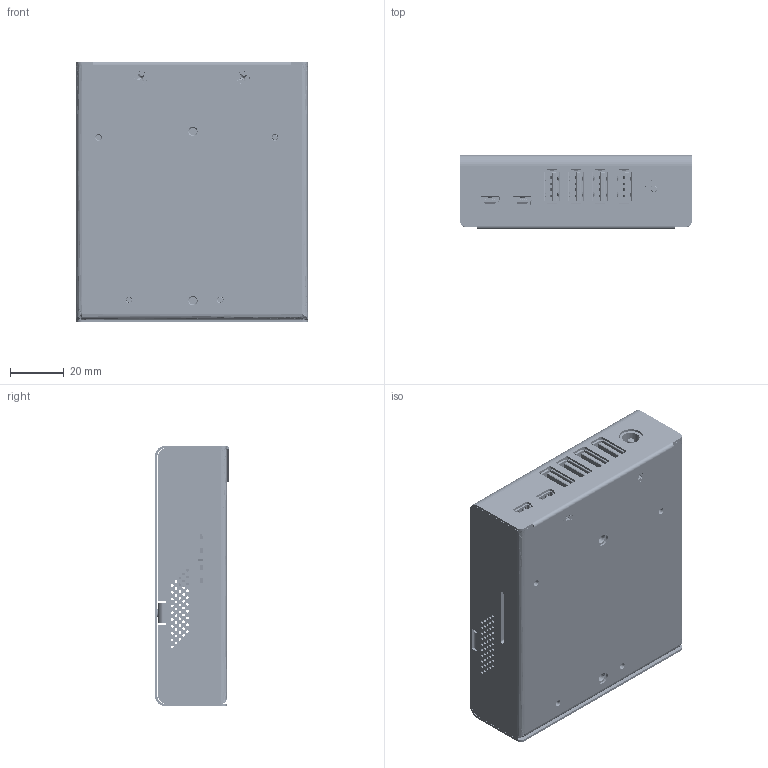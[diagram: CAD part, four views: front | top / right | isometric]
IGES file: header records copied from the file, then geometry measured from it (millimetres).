
Start section: SolidWorks IGES file using analytic representation for surfaces
Global section: file name: C:\Users\acroname\Desktop\S77-USBHUB-2X4.IGS; native system: SolidWorks 2016; preprocessor: SolidWorks 2016; author: acroname; date: 151016.090334; units: millimetre
Bounding box: 86.23 x 27.62 x 97.1 mm (x, y, z)
Surface area: 86513.3 mm2 (no closed solid volume)
Topology: 0 solids, 0 shells, 6024 faces, 58410 edges, 58374 vertices
Faces by surface type: bspline 3483, revolution 2541
